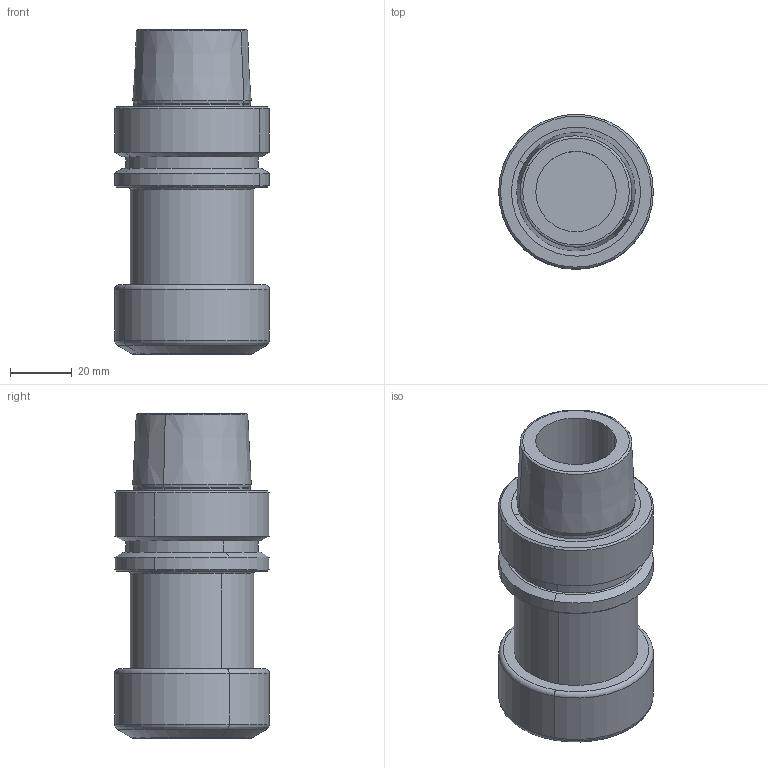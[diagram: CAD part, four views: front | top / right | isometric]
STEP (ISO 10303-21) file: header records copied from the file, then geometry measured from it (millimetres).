
FILE_DESCRIPTION(('CATIA V5 STEP','CAx-IF Rec.Pracs.--- Model Styling and Organization---1.2---2011-12-15'),'2;1');
FILE_NAME('\\nas01\drv1\utils\eitdev\rte\eit\transmagicconvert\db\out\635935447612128915\4504115-D-B-L.stp','2016-03-14T07:32:56+00:00',('none'),('none'),'CATIA Version 5 Release 21 SP 5 (IN-10)','CATIA V5 STEP AP214','none');
FILE_SCHEMA(('AUTOMOTIVE_DESIGN { 1 0 10303 214 1 1 1 1 }'));
Length unit declared in the file: millimetre
Products named in the file (1): HSK E 50 ER32X 80
Bounding box: 50 x 49.99 x 105 mm (x, y, z)
Volume: 107717.6 mm3; surface area: 26777.8 mm2
Topology: 1 solids, 1 shells, 62 faces, 132 edges, 77 vertices
Faces by surface type: cone 22, cylinder 20, torus 12, plane 8
Entity records: 1478 total; most frequent: ORIENTED_EDGE 260, CARTESIAN_POINT 245, DIRECTION 204, EDGE_CURVE 130, AXIS2_PLACEMENT_3D 126, CIRCLE 88, VERTEX_POINT 77, EDGE_LOOP 69
